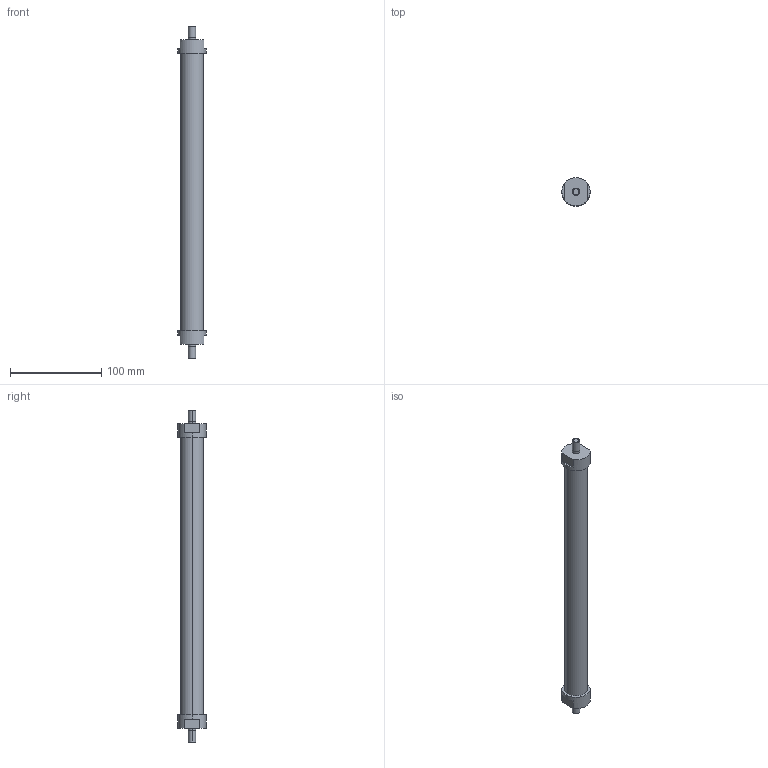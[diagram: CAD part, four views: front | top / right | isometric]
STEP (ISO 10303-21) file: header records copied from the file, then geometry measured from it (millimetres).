
FILE_DESCRIPTION(('STEP AP214'),'1');
FILE_NAME('ETT-R050N344.stp','2015-02-02T15:34:57',(' '),(' '),'Spatial InterOp 3D',' ',' ');
FILE_SCHEMA(('automotive_design'));
Length unit declared in the file: metre
Products named in the file (3): 1; 2; 3
Bounding box: 31 x 31 x 364 mm (x, y, z)
Volume: 172231.7 mm3; surface area: 30103.4 mm2
Topology: 1 solids, 7 shells, 30 faces, 81 edges, 63 vertices
Faces by surface type: plane 16, cylinder 14
Entity records: 1295 total; most frequent: DIRECTION 194, CARTESIAN_POINT 177, ORIENTED_EDGE 138, EDGE_CURVE 81, AXIS2_PLACEMENT_3D 80, VERTEX_POINT 63, CIRCLE 47, EDGE_LOOP 36
